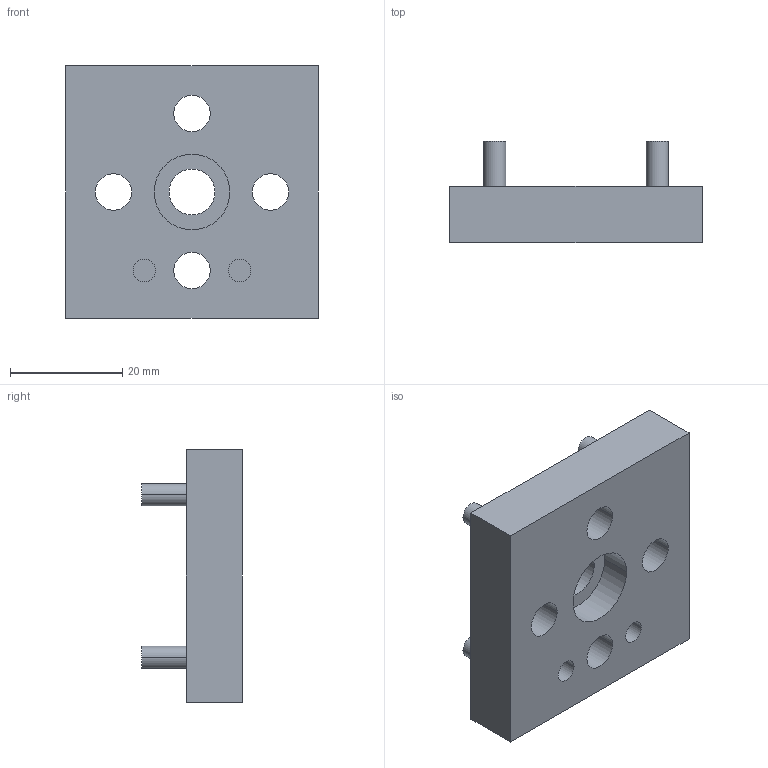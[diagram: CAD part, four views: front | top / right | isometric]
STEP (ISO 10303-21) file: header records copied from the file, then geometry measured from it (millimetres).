
FILE_DESCRIPTION((''),'2;1');
FILE_NAME('GIF0101_ASM','2002-12-27T',('Lipro doo'),('Lipro d.o.o.'),'PRO/ENGINEER BY PARAMETRIC TECHNOLOGY CORPORATION, 2001150','PRO/ENGINEER BY PARAMETRIC TECHNOLOGY CORPORATION, 2001150','');
FILE_SCHEMA(('CONFIG_CONTROL_DESIGN'));
Length unit declared in the file: millimetre
Products named in the file (3): GIF0100; GIF0100_3; GIF0101_ASM
Assembly tree (5 placements, depth 2):
  GIF0101_ASM
    GIF0100
    GIF0100_3  x4
Bounding box: 45 x 18 x 45 mm (x, y, z)
Volume: 16473.2 mm3; surface area: 8358.7 mm2
Topology: 5 solids, 5 shells, 89 faces, 204 edges, 136 vertices
Faces by surface type: cylinder 48, plane 41
Entity records: 2421 total; most frequent: DIRECTION 440, CARTESIAN_POINT 395, ORIENTED_EDGE 372, EDGE_CURVE 186, AXIS2_PLACEMENT_3D 169, VERTEX_POINT 124, VECTOR 102, LINE 102
